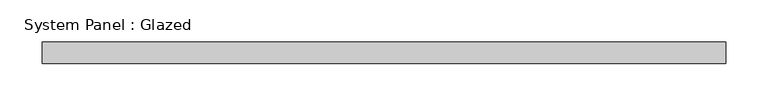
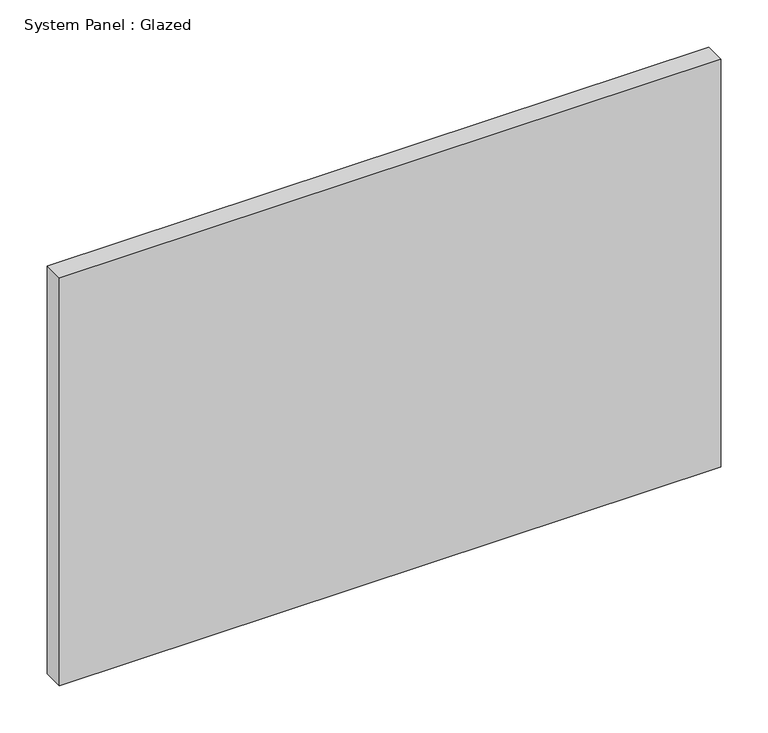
"""IFC4 building model written with IfcOpenShell, lengths in millimetres: plate geometry, System Panel : Glazed."""

from ifc_helpers import new_model, si_unit, origin, origin_with_axes, place, context, project, spatial, polyline, outline, extrude, source, transform, mapped, element, save


def system_panel_glazed_2372a917(model_context):
    return source(origin(), model_context, "Body", "SweptSolid", [
        extrude(outline(polyline([(403.621875, 19.05), (-403.621875, 19.05), (-403.621875, 44.45), (403.621875, 44.45), (403.621875, 19.05)])), origin_with_axes(), (0.0, 0.0, 1.0), 526.35),
    ])


if __name__ == "__main__":
    model = new_model("IFC4")
    model_context = context("Model", 3, world=origin())
    ifc_project = project(units=[si_unit("LENGTHUNIT", "METRE", prefix="MILLI")], contexts=[model_context])
    site = spatial("IfcSite", under=ifc_project)
    building = spatial("IfcBuilding", under=site)
    placement = place(None, origin())
    system_panel_glazed_shape = system_panel_glazed_2372a917(model_context)
    element("IfcPlate", 1, ObjectType="System Panel : Glazed", at=placement, inside=building, context=model_context, shape_type="MappedRepresentation", body=[
        mapped(system_panel_glazed_shape, transform((0.0, 0.0, 0.0), x_axis=(1.0, 0.0, 0.0), y_axis=(0.0, 1.0, 0.0), z_axis=(0.0, 0.0, 1.0))),
    ])
    save(model, "model.ifc")
